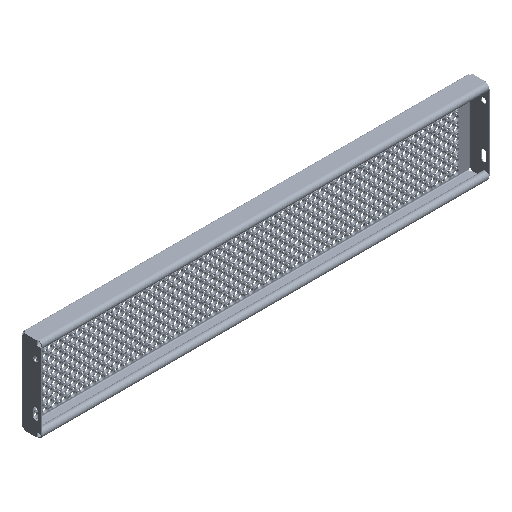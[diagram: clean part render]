
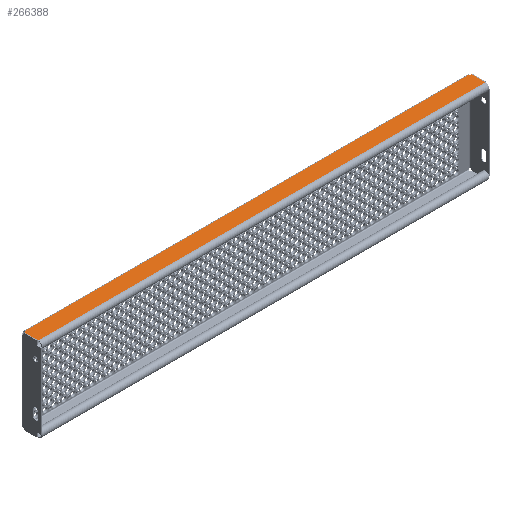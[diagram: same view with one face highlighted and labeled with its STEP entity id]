
A CAD part, isometric view. The second image highlights one B-rep face of the part: STEP entity #266388.
In plain terms, the highlighted planar face has unit normal (0, 0, 1).
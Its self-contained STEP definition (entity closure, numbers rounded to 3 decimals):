
#27686 = VECTOR ( 'NONE', #302768, 1000. ) ;
#27817 = DIRECTION ( 'NONE',  ( 0., -1., 0. ) ) ;
#38136 = ORIENTED_EDGE ( 'NONE', *, *, #199278, .T. ) ;
#44617 = CARTESIAN_POINT ( 'NONE',  ( 594.302, -4., 112.5 ) ) ;
#50947 = VERTEX_POINT ( 'NONE', #172835 ) ;
#57627 = ORIENTED_EDGE ( 'NONE', *, *, #304195, .T. ) ;
#91164 = VERTEX_POINT ( 'NONE', #490736 ) ;
#94927 = EDGE_CURVE ( 'NONE', #401339, #314751, #235275, .T. ) ;
#117368 = VERTEX_POINT ( 'NONE', #438562 ) ;
#123151 = EDGE_CURVE ( 'NONE', #50947, #91164, #145306, .T. ) ;
#123228 = CARTESIAN_POINT ( 'NONE',  ( -599., -2.288, 112.5 ) ) ;
#145126 = DIRECTION ( 'NONE',  ( 0., 0., 1. ) ) ;
#145306 = CIRCLE ( 'NONE', #241227, 5. ) ;
#150431 = LINE ( 'NONE', #297890, #27686 ) ;
#152555 = FACE_OUTER_BOUND ( 'NONE', #264250, .T. ) ;
#160294 = CARTESIAN_POINT ( 'NONE',  ( -597.99, -43.998, 112.5 ) ) ;
#165338 = ORIENTED_EDGE ( 'NONE', *, *, #94927, .T. ) ;
#170389 = CIRCLE ( 'NONE', #377764, 5. ) ;
#172835 = CARTESIAN_POINT ( 'NONE',  ( -594.302, -4., 112.5 ) ) ;
#178786 = VERTEX_POINT ( 'NONE', #44617 ) ;
#182136 = CARTESIAN_POINT ( 'NONE',  ( -597.99, -7.185, 112.5 ) ) ;
#199278 = EDGE_CURVE ( 'NONE', #314751, #117368, #461041, .T. ) ;
#200907 = DIRECTION ( 'NONE',  ( 0., 1., 0. ) ) ;
#219656 = LINE ( 'NONE', #182136, #382590 ) ;
#224103 = ORIENTED_EDGE ( 'NONE', *, *, #228007, .T. ) ;
#228007 = EDGE_CURVE ( 'NONE', #117368, #178786, #170389, .T. ) ;
#235275 = LINE ( 'NONE', #160294, #336298 ) ;
#239611 = CARTESIAN_POINT ( 'NONE',  ( 599., -2.288, 112.5 ) ) ;
#241227 = AXIS2_PLACEMENT_3D ( 'NONE', #123228, #305681, #458300 ) ;
#264250 = EDGE_LOOP ( 'NONE', ( #165338, #38136, #224103, #335215, #464166, #57627 ) ) ;
#266388 = ADVANCED_FACE ( 'NONE', ( #152555 ), #407582, .T. ) ;
#275837 = CARTESIAN_POINT ( 'NONE',  ( 597.99, -7.185, 112.5 ) ) ;
#293509 = AXIS2_PLACEMENT_3D ( 'NONE', #370112, #145126, #27817 ) ;
#297890 = CARTESIAN_POINT ( 'NONE',  ( -599., -4., 112.5 ) ) ;
#302768 = DIRECTION ( 'NONE',  ( 1., 0., 0. ) ) ;
#304195 = EDGE_CURVE ( 'NONE', #91164, #401339, #219656, .T. ) ;
#305681 = DIRECTION ( 'NONE',  ( 0., 0., -1. ) ) ;
#312619 = DIRECTION ( 'NONE',  ( 1., 0., 0. ) ) ;
#314751 = VERTEX_POINT ( 'NONE', #324917 ) ;
#324917 = CARTESIAN_POINT ( 'NONE',  ( 597.99, -43.998, 112.5 ) ) ;
#335215 = ORIENTED_EDGE ( 'NONE', *, *, #492834, .F. ) ;
#336298 = VECTOR ( 'NONE', #312619, 1000. ) ;
#367166 = DIRECTION ( 'NONE',  ( 0., -1., 0. ) ) ;
#370112 = CARTESIAN_POINT ( 'NONE',  ( -599., 220.712, 112.5 ) ) ;
#377764 = AXIS2_PLACEMENT_3D ( 'NONE', #239611, #392146, #432001 ) ;
#382590 = VECTOR ( 'NONE', #367166, 1000. ) ;
#392146 = DIRECTION ( 'NONE',  ( 0., 0., -1. ) ) ;
#401339 = VERTEX_POINT ( 'NONE', #459127 ) ;
#407582 = PLANE ( 'NONE',  #293509 ) ;
#430425 = VECTOR ( 'NONE', #200907, 1000. ) ;
#432001 = DIRECTION ( 'NONE',  ( 0., -1., 0. ) ) ;
#438562 = CARTESIAN_POINT ( 'NONE',  ( 597.99, -7.185, 112.5 ) ) ;
#458300 = DIRECTION ( 'NONE',  ( 0., -1., 0. ) ) ;
#459127 = CARTESIAN_POINT ( 'NONE',  ( -597.99, -43.998, 112.5 ) ) ;
#461041 = LINE ( 'NONE', #275837, #430425 ) ;
#464166 = ORIENTED_EDGE ( 'NONE', *, *, #123151, .T. ) ;
#490736 = CARTESIAN_POINT ( 'NONE',  ( -597.99, -7.185, 112.5 ) ) ;
#492834 = EDGE_CURVE ( 'NONE', #50947, #178786, #150431, .T. ) ;
